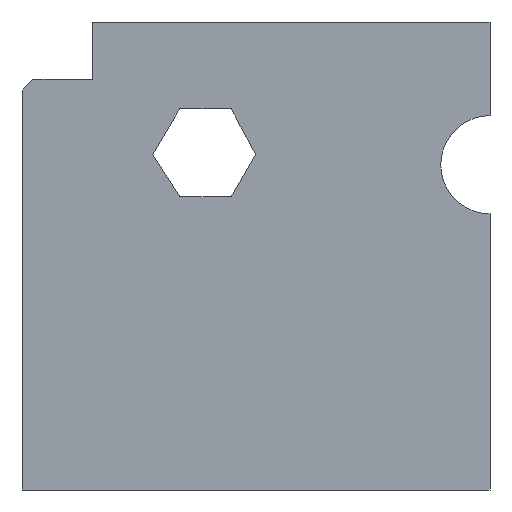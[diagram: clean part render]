
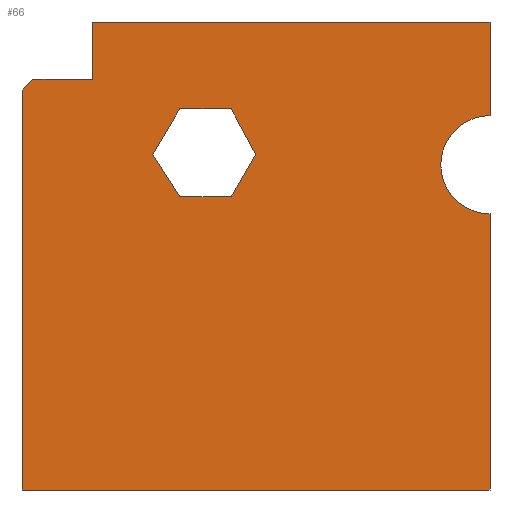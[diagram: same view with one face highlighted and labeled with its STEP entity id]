
A CAD part, front view. The second image highlights one B-rep face of the part: STEP entity #66.
In plain terms, the highlighted planar face has unit normal (0, -1, 0).
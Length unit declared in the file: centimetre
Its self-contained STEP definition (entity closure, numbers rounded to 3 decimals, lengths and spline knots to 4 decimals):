
#8 = EDGE_CURVE ( 'NONE', #802, #1130, #1168, .T. ) ;
#9 = EDGE_CURVE ( 'NONE', #259, #94, #493, .T. ) ;
#12 = VECTOR ( 'NONE', #551, 100. ) ;
#58 = EDGE_CURVE ( 'NONE', #368, #868, #684, .T. ) ;
#66 = ADVANCED_FACE ( 'NONE', ( #890, #1076 ), #976, .F. ) ;
#86 = CARTESIAN_POINT ( 'NONE',  ( 337.1337, 0., 626.9332 ) ) ;
#88 = VECTOR ( 'NONE', #1013, 100. ) ;
#90 = CARTESIAN_POINT ( 'NONE',  ( 145.344, 0., 1000. ) ) ;
#94 = VERTEX_POINT ( 'NONE', #1180 ) ;
#99 = VERTEX_POINT ( 'NONE', #118 ) ;
#101 = CARTESIAN_POINT ( 'NONE',  ( 1000., 0., 1000. ) ) ;
#118 = CARTESIAN_POINT ( 'NONE',  ( 447.1931, 0., 626.9332 ) ) ;
#130 = CARTESIAN_POINT ( 'NONE',  ( 1000., 0., 1000. ) ) ;
#163 = VECTOR ( 'NONE', #239, 100. ) ;
#167 = ORIENTED_EDGE ( 'NONE', *, *, #284, .F. ) ;
#170 = LINE ( 'NONE', #253, #893 ) ;
#179 = LINE ( 'NONE', #944, #873 ) ;
#184 = DIRECTION ( 'NONE',  ( -0.54, 0., 0.842 ) ) ;
#186 = DIRECTION ( 'NONE',  ( 0., 1., 0. ) ) ;
#215 = CARTESIAN_POINT ( 'NONE',  ( 150.1203, 0., 878.0354 ) ) ;
#216 = CIRCLE ( 'NONE', #916, 105.1305 ) ;
#224 = AXIS2_PLACEMENT_3D ( 'NONE', #508, #610, #230 ) ;
#225 = CARTESIAN_POINT ( 'NONE',  ( 0., 0., 1000. ) ) ;
#230 = DIRECTION ( 'NONE',  ( 0., 0., 1. ) ) ;
#239 = DIRECTION ( 'NONE',  ( 0., 0., -1. ) ) ;
#249 = CARTESIAN_POINT ( 'NONE',  ( 1000., 0., 589.8582 ) ) ;
#253 = CARTESIAN_POINT ( 'NONE',  ( 150.1203, 0., 878.0354 ) ) ;
#259 = VERTEX_POINT ( 'NONE', #998 ) ;
#265 = VERTEX_POINT ( 'NONE', #800 ) ;
#279 = CARTESIAN_POINT ( 'NONE',  ( 1000., 0., 694.9887 ) ) ;
#284 = EDGE_CURVE ( 'NONE', #868, #735, #323, .T. ) ;
#311 = EDGE_CURVE ( 'NONE', #1130, #99, #329, .T. ) ;
#323 = LINE ( 'NONE', #130, #163 ) ;
#329 = LINE ( 'NONE', #414, #968 ) ;
#355 = ORIENTED_EDGE ( 'NONE', *, *, #984, .T. ) ;
#358 = DIRECTION ( 'NONE',  ( 1., 0., 0. ) ) ;
#359 = ORIENTED_EDGE ( 'NONE', *, *, #9, .T. ) ;
#360 = ORIENTED_EDGE ( 'NONE', *, *, #736, .T. ) ;
#368 = VERTEX_POINT ( 'NONE', #696 ) ;
#407 = VECTOR ( 'NONE', #943, 100. ) ;
#414 = CARTESIAN_POINT ( 'NONE',  ( 499.3292, 0., 717.2355 ) ) ;
#442 = LINE ( 'NONE', #936, #88 ) ;
#445 = VECTOR ( 'NONE', #184, 100. ) ;
#458 = LINE ( 'NONE', #90, #1065 ) ;
#468 = CARTESIAN_POINT ( 'NONE',  ( 0., 0., 0. ) ) ;
#470 = EDGE_CURVE ( 'NONE', #741, #570, #871, .T. ) ;
#473 = ORIENTED_EDGE ( 'NONE', *, *, #713, .F. ) ;
#487 = EDGE_LOOP ( 'NONE', ( #928, #1041, #167, #648, #473, #1019, #949, #355, #1235 ) ) ;
#493 = LINE ( 'NONE', #86, #445 ) ;
#508 = CARTESIAN_POINT ( 'NONE',  ( 0., 0., 1000. ) ) ;
#535 = CARTESIAN_POINT ( 'NONE',  ( 337.1337, 0., 814.2204 ) ) ;
#551 = DIRECTION ( 'NONE',  ( 1., 0., 0. ) ) ;
#560 = DIRECTION ( 'NONE',  ( -1., 0., 0. ) ) ;
#568 = DIRECTION ( 'NONE',  ( 0., 0., 1. ) ) ;
#570 = VERTEX_POINT ( 'NONE', #215 ) ;
#572 = VECTOR ( 'NONE', #942, 100. ) ;
#600 = CARTESIAN_POINT ( 'NONE',  ( 499.3292, 0., 717.2355 ) ) ;
#610 = DIRECTION ( 'NONE',  ( 0., 1., 0. ) ) ;
#617 = EDGE_LOOP ( 'NONE', ( #640, #646, #1049, #359, #727, #360 ) ) ;
#620 = VERTEX_POINT ( 'NONE', #994 ) ;
#638 = CARTESIAN_POINT ( 'NONE',  ( 447.1931, 0., 814.2204 ) ) ;
#639 = CARTESIAN_POINT ( 'NONE',  ( 447.1931, 0., 814.2204 ) ) ;
#640 = ORIENTED_EDGE ( 'NONE', *, *, #8, .T. ) ;
#646 = ORIENTED_EDGE ( 'NONE', *, *, #311, .T. ) ;
#648 = ORIENTED_EDGE ( 'NONE', *, *, #58, .F. ) ;
#657 = DIRECTION ( 'NONE',  ( -0.707, 0., -0.707 ) ) ;
#661 = LINE ( 'NONE', #1164, #750 ) ;
#666 = VECTOR ( 'NONE', #772, 100. ) ;
#684 = LINE ( 'NONE', #225, #767 ) ;
#691 = EDGE_CURVE ( 'NONE', #94, #746, #442, .T. ) ;
#696 = CARTESIAN_POINT ( 'NONE',  ( 150.1203, 0., 1000. ) ) ;
#698 = EDGE_CURVE ( 'NONE', #741, #265, #458, .T. ) ;
#713 = EDGE_CURVE ( 'NONE', #570, #368, #170, .T. ) ;
#726 = LINE ( 'NONE', #468, #1205 ) ;
#727 = ORIENTED_EDGE ( 'NONE', *, *, #691, .T. ) ;
#735 = VERTEX_POINT ( 'NONE', #926 ) ;
#736 = EDGE_CURVE ( 'NONE', #746, #802, #1020, .T. ) ;
#741 = VERTEX_POINT ( 'NONE', #1233 ) ;
#746 = VERTEX_POINT ( 'NONE', #535 ) ;
#750 = VECTOR ( 'NONE', #763, 100. ) ;
#763 = DIRECTION ( 'NONE',  ( 0., 0., -1. ) ) ;
#767 = VECTOR ( 'NONE', #1071, 100. ) ;
#772 = DIRECTION ( 'NONE',  ( 1., 0., 0. ) ) ;
#780 = CARTESIAN_POINT ( 'NONE',  ( 0., 0., 878.0354 ) ) ;
#785 = EDGE_CURVE ( 'NONE', #99, #259, #179, .T. ) ;
#786 = EDGE_CURVE ( 'NONE', #620, #912, #726, .T. ) ;
#800 = CARTESIAN_POINT ( 'NONE',  ( 0., 0., 854.656 ) ) ;
#802 = VERTEX_POINT ( 'NONE', #639 ) ;
#803 = EDGE_CURVE ( 'NONE', #1220, #735, #216, .T. ) ;
#831 = CARTESIAN_POINT ( 'NONE',  ( 337.1337, 0., 814.2204 ) ) ;
#868 = VERTEX_POINT ( 'NONE', #101 ) ;
#871 = LINE ( 'NONE', #780, #666 ) ;
#873 = VECTOR ( 'NONE', #560, 100. ) ;
#890 = FACE_BOUND ( 'NONE', #617, .T. ) ;
#893 = VECTOR ( 'NONE', #1031, 100. ) ;
#906 = DIRECTION ( 'NONE',  ( -0.5, 0., -0.866 ) ) ;
#912 = VERTEX_POINT ( 'NONE', #1151 ) ;
#916 = AXIS2_PLACEMENT_3D ( 'NONE', #279, #186, #568 ) ;
#926 = CARTESIAN_POINT ( 'NONE',  ( 1000., 0., 800.1192 ) ) ;
#928 = ORIENTED_EDGE ( 'NONE', *, *, #978, .F. ) ;
#936 = CARTESIAN_POINT ( 'NONE',  ( 279.2104, 0., 717.2355 ) ) ;
#942 = DIRECTION ( 'NONE',  ( 0.473, 0., -0.881 ) ) ;
#943 = DIRECTION ( 'NONE',  ( 0., 0., -1. ) ) ;
#944 = CARTESIAN_POINT ( 'NONE',  ( 447.1931, 0., 626.9332 ) ) ;
#949 = ORIENTED_EDGE ( 'NONE', *, *, #698, .T. ) ;
#968 = VECTOR ( 'NONE', #906, 100. ) ;
#976 = PLANE ( 'NONE',  #224 ) ;
#978 = EDGE_CURVE ( 'NONE', #1220, #912, #661, .T. ) ;
#984 = EDGE_CURVE ( 'NONE', #265, #620, #1157, .T. ) ;
#994 = CARTESIAN_POINT ( 'NONE',  ( 0., 0., 0. ) ) ;
#998 = CARTESIAN_POINT ( 'NONE',  ( 337.1337, 0., 626.9332 ) ) ;
#1013 = DIRECTION ( 'NONE',  ( 0.513, 0., 0.859 ) ) ;
#1019 = ORIENTED_EDGE ( 'NONE', *, *, #470, .F. ) ;
#1020 = LINE ( 'NONE', #831, #12 ) ;
#1031 = DIRECTION ( 'NONE',  ( 0., 0., 1. ) ) ;
#1041 = ORIENTED_EDGE ( 'NONE', *, *, #803, .T. ) ;
#1049 = ORIENTED_EDGE ( 'NONE', *, *, #785, .T. ) ;
#1065 = VECTOR ( 'NONE', #657, 100. ) ;
#1071 = DIRECTION ( 'NONE',  ( 1., 0., 0. ) ) ;
#1076 = FACE_OUTER_BOUND ( 'NONE', #487, .T. ) ;
#1130 = VERTEX_POINT ( 'NONE', #600 ) ;
#1136 = CARTESIAN_POINT ( 'NONE',  ( 0., 0., 1000. ) ) ;
#1151 = CARTESIAN_POINT ( 'NONE',  ( 1000., 0., 0. ) ) ;
#1157 = LINE ( 'NONE', #1136, #407 ) ;
#1164 = CARTESIAN_POINT ( 'NONE',  ( 1000., 0., 1000. ) ) ;
#1168 = LINE ( 'NONE', #638, #572 ) ;
#1180 = CARTESIAN_POINT ( 'NONE',  ( 279.2104, 0., 717.2355 ) ) ;
#1205 = VECTOR ( 'NONE', #358, 100. ) ;
#1220 = VERTEX_POINT ( 'NONE', #249 ) ;
#1233 = CARTESIAN_POINT ( 'NONE',  ( 23.3794, 0., 878.0354 ) ) ;
#1235 = ORIENTED_EDGE ( 'NONE', *, *, #786, .T. ) ;
